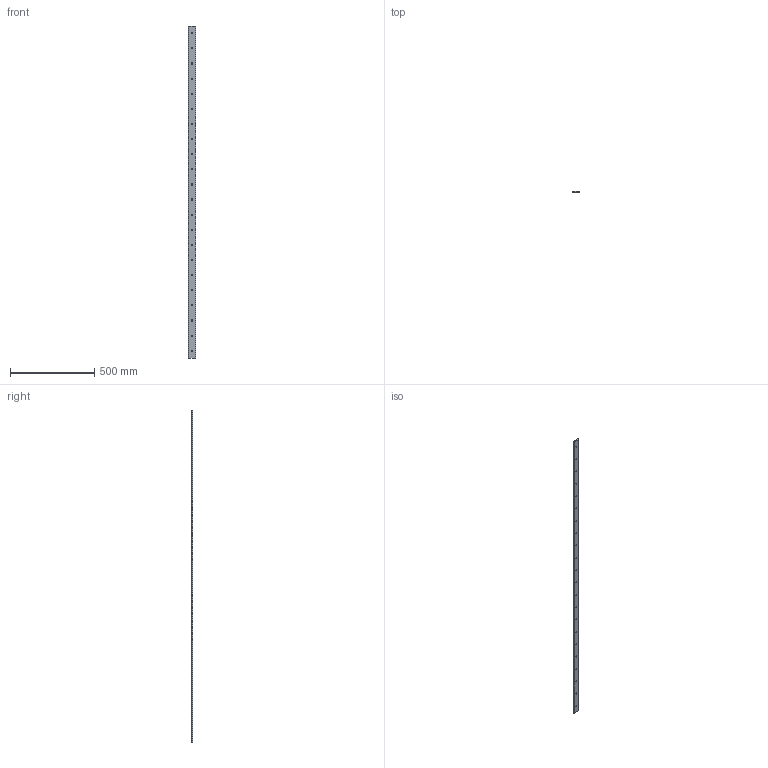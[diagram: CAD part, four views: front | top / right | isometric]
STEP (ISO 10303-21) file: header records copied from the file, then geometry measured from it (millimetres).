
FILE_DESCRIPTION(('STEP AP203'),'1');
FILE_NAME('slide_m44l1976p3.stp','2022-07-01T06:20:44',('TraceParts'),('TraceParts S.A.'),'Spatial InterOp 3D',' ',' ');
FILE_SCHEMA(('CONFIG_CONTROL_DESIGN'));
Length unit declared in the file: millimetre
Products named in the file (1): 1
Bounding box: 44.45 x 6.42 x 1976 mm (x, y, z)
Volume: 513563.2 mm3; surface area: 187257.4 mm2
Topology: 1 solids, 1 shells, 56 faces, 162 edges, 108 vertices
Faces by surface type: cylinder 48, plane 8
Entity records: 2034 total; most frequent: DIRECTION 372, CARTESIAN_POINT 327, ORIENTED_EDGE 324, EDGE_CURVE 162, AXIS2_PLACEMENT_3D 153, VERTEX_POINT 108, EDGE_LOOP 100, CIRCLE 96
